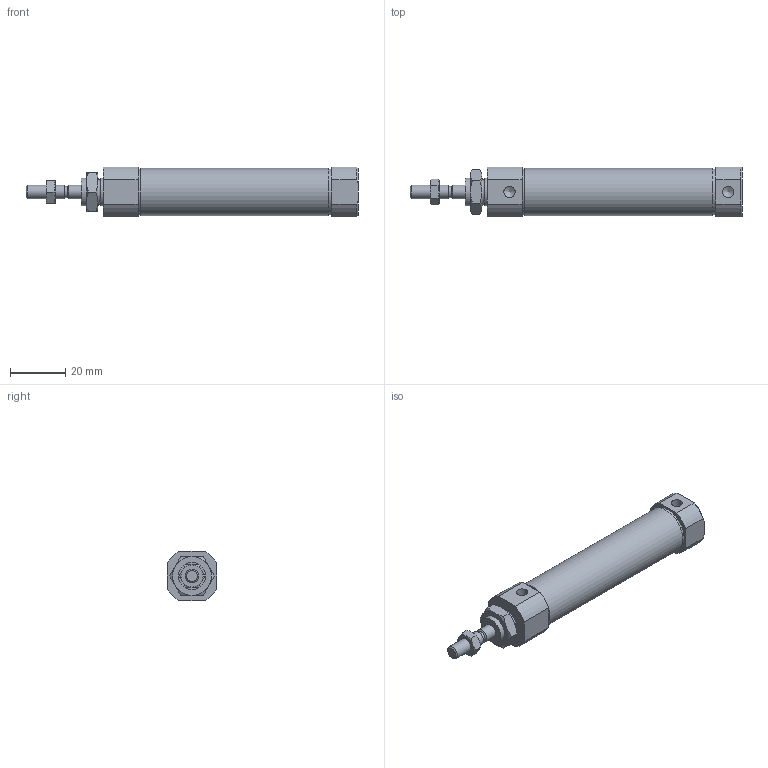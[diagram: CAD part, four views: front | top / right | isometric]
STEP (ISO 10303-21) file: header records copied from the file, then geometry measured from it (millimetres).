
FILE_DESCRIPTION((''),'2;1');
FILE_NAME('I:\3D電子目錄\氣缸\SBA\SBA\SBA16\SBA16x45.stp','2007-10-04T11:56:21',('66-2f-008'),(''),'Autodesk Inventor 11','Autodesk Inventor 11','');
FILE_SCHEMA(('AUTOMOTIVE_DESIGN { 1 0 10303 214 1 1 1 1 }'));
Length unit declared in the file: millimetre
Products named in the file (1): SBA16
Bounding box: 120 x 18 x 18 mm (x, y, z)
Volume: 23913.1 mm3; surface area: 6973.3 mm2
Topology: 1 solids, 1 shells, 88 faces, 192 edges, 117 vertices
Faces by surface type: plane 35, cone 30, cylinder 18, bspline 5
Full cylindrical faces by diameter (mm): 4 x1, 5 x3, 10 x3, 16.54 x2, 17.2 x1
Entity records: 2363 total; most frequent: CARTESIAN_POINT 637, DIRECTION 352, ORIENTED_EDGE 342, EDGE_CURVE 171, AXIS2_PLACEMENT_3D 153, EDGE_LOOP 116, VERTEX_POINT 113, FACE_OUTER_BOUND 88
